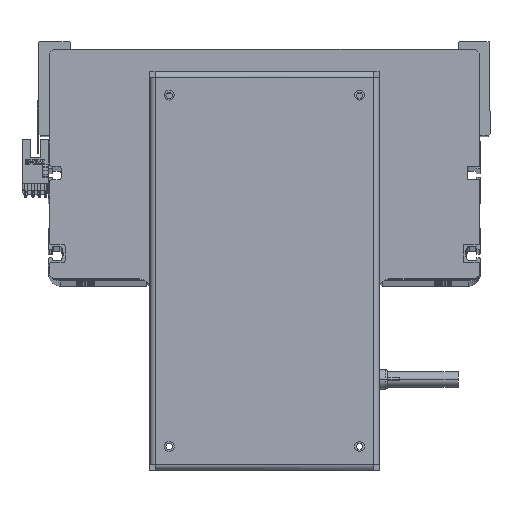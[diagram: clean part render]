
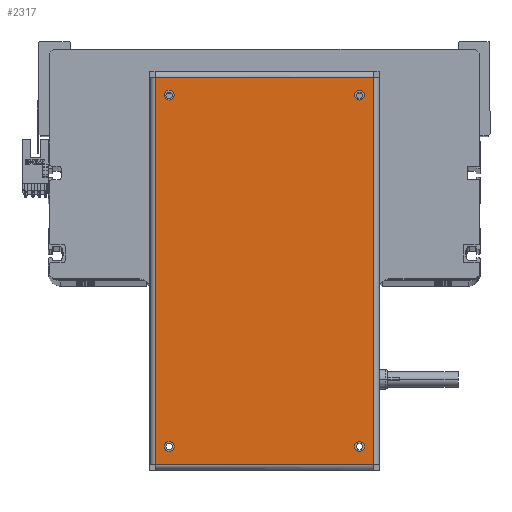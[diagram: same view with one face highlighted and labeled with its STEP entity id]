
A CAD part, top view. The second image highlights one B-rep face of the part: STEP entity #2317.
In plain terms, the highlighted planar face has unit normal (0, 0, 1).
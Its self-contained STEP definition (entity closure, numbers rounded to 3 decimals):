
#506 = CARTESIAN_POINT ( 'NONE',  ( -89.55, -48.5, 0. ) ) ;
#511 = VERTEX_POINT ( 'NONE', #2847 ) ;
#943 = CARTESIAN_POINT ( 'NONE',  ( -92.05, 48.5, 0. ) ) ;
#1003 = CARTESIAN_POINT ( 'NONE',  ( 89.55, -48.5, 0. ) ) ;
#1567 = DIRECTION ( 'NONE',  ( 1., 0., 0. ) ) ;
#1782 = ORIENTED_EDGE ( 'NONE', *, *, #15063, .T. ) ;
#1875 = ORIENTED_EDGE ( 'NONE', *, *, #3559, .F. ) ;
#2002 = CIRCLE ( 'NONE', #11861, 2.5 ) ;
#2317 = ADVANCED_FACE ( 'NONE', ( #7044, #34963, #41076, #20782, #14661 ), #28655, .F. ) ;
#2770 = VERTEX_POINT ( 'NONE', #40094 ) ;
#2847 = CARTESIAN_POINT ( 'NONE',  ( 87.05, -48.5, 0. ) ) ;
#2921 = CARTESIAN_POINT ( 'NONE',  ( -89.55, 48.5, 0. ) ) ;
#2985 = CIRCLE ( 'NONE', #13344, 2.5 ) ;
#3218 = ORIENTED_EDGE ( 'NONE', *, *, #39396, .F. ) ;
#3559 = EDGE_CURVE ( 'NONE', #20525, #13252, #18689, .T. ) ;
#3568 = DIRECTION ( 'NONE',  ( -1., 0., 0. ) ) ;
#3775 = LINE ( 'NONE', #39547, #32742 ) ;
#5211 = DIRECTION ( 'NONE',  ( 1., 0., 0. ) ) ;
#5455 = AXIS2_PLACEMENT_3D ( 'NONE', #40977, #24607, #5211 ) ;
#5571 = EDGE_CURVE ( 'NONE', #5684, #2770, #11410, .T. ) ;
#5684 = VERTEX_POINT ( 'NONE', #41116 ) ;
#5768 = EDGE_CURVE ( 'NONE', #28056, #9566, #3775, .T. ) ;
#6382 = CARTESIAN_POINT ( 'NONE',  ( 98.65, 55.6, 0. ) ) ;
#6620 = CIRCLE ( 'NONE', #16886, 2.5 ) ;
#7044 = FACE_BOUND ( 'NONE', #15855, .T. ) ;
#7056 = DIRECTION ( 'NONE',  ( 1., 0., 0. ) ) ;
#7194 = EDGE_LOOP ( 'NONE', ( #19528, #24246 ) ) ;
#7371 = AXIS2_PLACEMENT_3D ( 'NONE', #1003, #23568, #10985 ) ;
#7380 = VERTEX_POINT ( 'NONE', #35981 ) ;
#8377 = EDGE_LOOP ( 'NONE', ( #14136, #20639 ) ) ;
#8835 = EDGE_CURVE ( 'NONE', #17787, #511, #14731, .T. ) ;
#8962 = EDGE_CURVE ( 'NONE', #511, #17787, #6620, .T. ) ;
#9566 = VERTEX_POINT ( 'NONE', #6382 ) ;
#9712 = CARTESIAN_POINT ( 'NONE',  ( 98.75, 55.6, 0. ) ) ;
#10010 = CIRCLE ( 'NONE', #15040, 2.5 ) ;
#10515 = EDGE_LOOP ( 'NONE', ( #12727, #31066 ) ) ;
#10985 = DIRECTION ( 'NONE',  ( 1., 0., 0. ) ) ;
#11410 = CIRCLE ( 'NONE', #5455, 2.5 ) ;
#11861 = AXIS2_PLACEMENT_3D ( 'NONE', #2921, #25749, #29642 ) ;
#11910 = VERTEX_POINT ( 'NONE', #19504 ) ;
#12727 = ORIENTED_EDGE ( 'NONE', *, *, #5571, .F. ) ;
#13252 = VERTEX_POINT ( 'NONE', #26810 ) ;
#13344 = AXIS2_PLACEMENT_3D ( 'NONE', #24342, #37175, #17755 ) ;
#13633 = AXIS2_PLACEMENT_3D ( 'NONE', #17058, #33484, #20730 ) ;
#14136 = ORIENTED_EDGE ( 'NONE', *, *, #8835, .F. ) ;
#14246 = VERTEX_POINT ( 'NONE', #15447 ) ;
#14661 = FACE_OUTER_BOUND ( 'NONE', #14912, .T. ) ;
#14731 = CIRCLE ( 'NONE', #7371, 2.5 ) ;
#14912 = EDGE_LOOP ( 'NONE', ( #41284, #1782, #16250, #30244 ) ) ;
#14924 = VECTOR ( 'NONE', #7056, 1000. ) ;
#15040 = AXIS2_PLACEMENT_3D ( 'NONE', #506, #30212, #20280 ) ;
#15063 = EDGE_CURVE ( 'NONE', #11910, #28056, #27612, .T. ) ;
#15447 = CARTESIAN_POINT ( 'NONE',  ( -87.05, 48.5, 0. ) ) ;
#15855 = EDGE_LOOP ( 'NONE', ( #3218, #1875 ) ) ;
#16250 = ORIENTED_EDGE ( 'NONE', *, *, #5768, .T. ) ;
#16886 = AXIS2_PLACEMENT_3D ( 'NONE', #24658, #31386, #1567 ) ;
#17058 = CARTESIAN_POINT ( 'NONE',  ( -89.55, 48.5, 0. ) ) ;
#17118 = CARTESIAN_POINT ( 'NONE',  ( -89.55, -48.5, 0. ) ) ;
#17755 = DIRECTION ( 'NONE',  ( 1., 0., 0. ) ) ;
#17787 = VERTEX_POINT ( 'NONE', #38328 ) ;
#17858 = LINE ( 'NONE', #9712, #19878 ) ;
#18007 = EDGE_CURVE ( 'NONE', #2770, #5684, #2985, .T. ) ;
#18466 = CARTESIAN_POINT ( 'NONE',  ( 98.75, 58.5, 0. ) ) ;
#18689 = CIRCLE ( 'NONE', #20635, 2.5 ) ;
#18935 = CIRCLE ( 'NONE', #13633, 2.5 ) ;
#19504 = CARTESIAN_POINT ( 'NONE',  ( -98.65, -55.6, 0. ) ) ;
#19528 = ORIENTED_EDGE ( 'NONE', *, *, #36782, .F. ) ;
#19878 = VECTOR ( 'NONE', #3568, 1000. ) ;
#20280 = DIRECTION ( 'NONE',  ( 1., 0., 0. ) ) ;
#20476 = CARTESIAN_POINT ( 'NONE',  ( -92.05, -48.5, 0. ) ) ;
#20525 = VERTEX_POINT ( 'NONE', #20476 ) ;
#20635 = AXIS2_PLACEMENT_3D ( 'NONE', #17118, #30712, #23591 ) ;
#20639 = ORIENTED_EDGE ( 'NONE', *, *, #8962, .F. ) ;
#20730 = DIRECTION ( 'NONE',  ( 1., 0., 0. ) ) ;
#20782 = FACE_BOUND ( 'NONE', #10515, .T. ) ;
#21664 = AXIS2_PLACEMENT_3D ( 'NONE', #18466, #35041, #38466 ) ;
#21944 = LINE ( 'NONE', #29107, #23960 ) ;
#23315 = DIRECTION ( 'NONE',  ( 0., 1., 0. ) ) ;
#23568 = DIRECTION ( 'NONE',  ( 0., 0., 1. ) ) ;
#23591 = DIRECTION ( 'NONE',  ( 1., 0., 0. ) ) ;
#23735 = EDGE_CURVE ( 'NONE', #7380, #11910, #21944, .T. ) ;
#23960 = VECTOR ( 'NONE', #35063, 1000. ) ;
#24246 = ORIENTED_EDGE ( 'NONE', *, *, #31406, .F. ) ;
#24342 = CARTESIAN_POINT ( 'NONE',  ( 89.55, 48.5, 0. ) ) ;
#24607 = DIRECTION ( 'NONE',  ( 0., 0., 1. ) ) ;
#24658 = CARTESIAN_POINT ( 'NONE',  ( 89.55, -48.5, 0. ) ) ;
#25749 = DIRECTION ( 'NONE',  ( 0., 0., 1. ) ) ;
#26746 = CARTESIAN_POINT ( 'NONE',  ( -98.75, -55.6, 0. ) ) ;
#26810 = CARTESIAN_POINT ( 'NONE',  ( -87.05, -48.5, 0. ) ) ;
#27612 = LINE ( 'NONE', #26746, #14924 ) ;
#28056 = VERTEX_POINT ( 'NONE', #36860 ) ;
#28655 = PLANE ( 'NONE',  #21664 ) ;
#29107 = CARTESIAN_POINT ( 'NONE',  ( -98.65, 55.6, 0. ) ) ;
#29642 = DIRECTION ( 'NONE',  ( 1., 0., 0. ) ) ;
#30212 = DIRECTION ( 'NONE',  ( 0., 0., 1. ) ) ;
#30244 = ORIENTED_EDGE ( 'NONE', *, *, #33314, .T. ) ;
#30712 = DIRECTION ( 'NONE',  ( 0., 0., 1. ) ) ;
#31066 = ORIENTED_EDGE ( 'NONE', *, *, #18007, .F. ) ;
#31386 = DIRECTION ( 'NONE',  ( 0., 0., 1. ) ) ;
#31406 = EDGE_CURVE ( 'NONE', #39409, #14246, #18935, .T. ) ;
#32742 = VECTOR ( 'NONE', #23315, 1000. ) ;
#33314 = EDGE_CURVE ( 'NONE', #9566, #7380, #17858, .T. ) ;
#33484 = DIRECTION ( 'NONE',  ( 0., 0., 1. ) ) ;
#34963 = FACE_BOUND ( 'NONE', #7194, .T. ) ;
#35041 = DIRECTION ( 'NONE',  ( 0., 0., -1. ) ) ;
#35063 = DIRECTION ( 'NONE',  ( 0., -1., 0. ) ) ;
#35981 = CARTESIAN_POINT ( 'NONE',  ( -98.65, 55.6, 0. ) ) ;
#36782 = EDGE_CURVE ( 'NONE', #14246, #39409, #2002, .T. ) ;
#36860 = CARTESIAN_POINT ( 'NONE',  ( 98.65, -55.6, 0. ) ) ;
#37175 = DIRECTION ( 'NONE',  ( 0., 0., 1. ) ) ;
#38328 = CARTESIAN_POINT ( 'NONE',  ( 92.05, -48.5, 0. ) ) ;
#38466 = DIRECTION ( 'NONE',  ( -1., 0., 0. ) ) ;
#39396 = EDGE_CURVE ( 'NONE', #13252, #20525, #10010, .T. ) ;
#39409 = VERTEX_POINT ( 'NONE', #943 ) ;
#39547 = CARTESIAN_POINT ( 'NONE',  ( 98.65, -55.6, 0. ) ) ;
#40094 = CARTESIAN_POINT ( 'NONE',  ( 87.05, 48.5, 0. ) ) ;
#40977 = CARTESIAN_POINT ( 'NONE',  ( 89.55, 48.5, 0. ) ) ;
#41076 = FACE_BOUND ( 'NONE', #8377, .T. ) ;
#41116 = CARTESIAN_POINT ( 'NONE',  ( 92.05, 48.5, 0. ) ) ;
#41284 = ORIENTED_EDGE ( 'NONE', *, *, #23735, .T. ) ;
